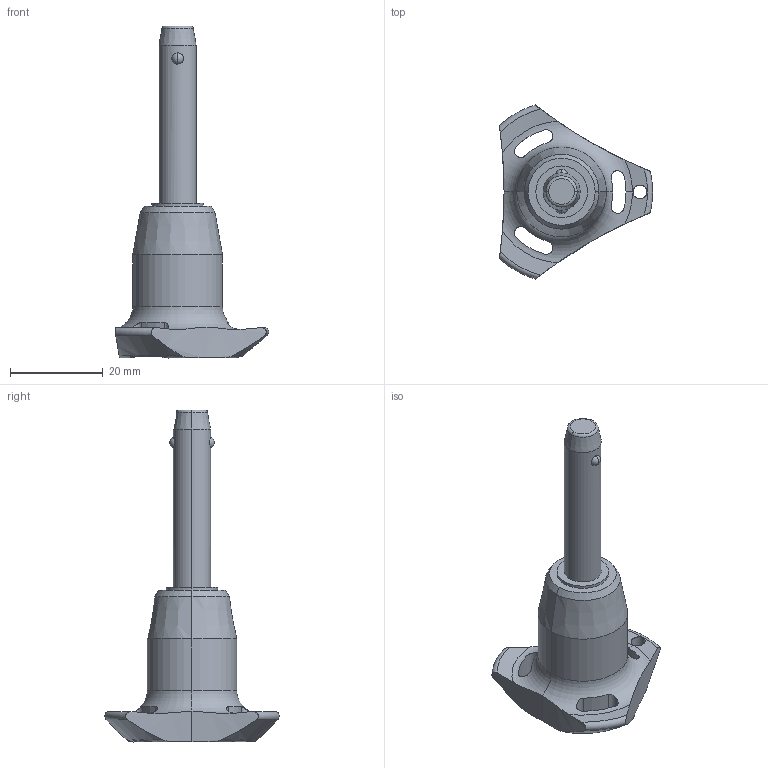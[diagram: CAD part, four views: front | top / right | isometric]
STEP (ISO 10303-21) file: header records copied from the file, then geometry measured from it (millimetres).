
FILE_DESCRIPTION (( 'STEP AP203' ), '1' );
FILE_NAME ('QR1704.M08-030-S.step', '2025-11-12T09:14:46', ( '' ), ( '' ), 'SwSTEP 2.0', 'SolidWorks 2019', '' );
FILE_SCHEMA (( 'CONFIG_CONTROL_DESIGN' ));
Length unit declared in the file: millimetre
Products named in the file (1): QR1704.M08-030-S
Bounding box: 33 x 37.51 x 71.5 mm (x, y, z)
Volume: 12158.2 mm3; surface area: 4808.6 mm2
Topology: 1 solids, 1 shells, 65 faces, 174 edges, 109 vertices
Faces by surface type: cylinder 30, cone 14, torus 11, sphere 6, plane 4
Entity records: 2746 total; most frequent: CARTESIAN_POINT 1073, ORIENTED_EDGE 348, DIRECTION 331, EDGE_CURVE 174, AXIS2_PLACEMENT_3D 147, VERTEX_POINT 109, CIRCLE 81, EDGE_LOOP 71
